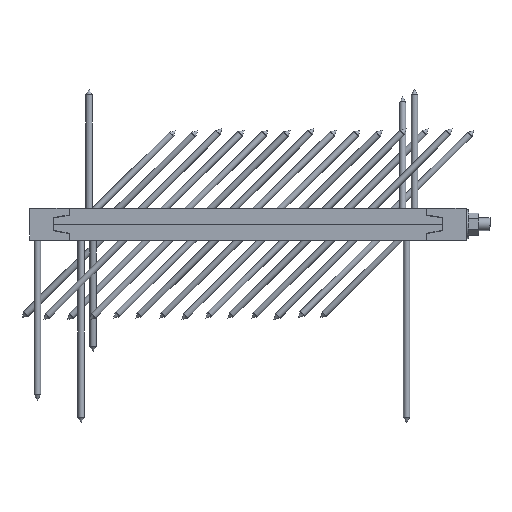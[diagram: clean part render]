
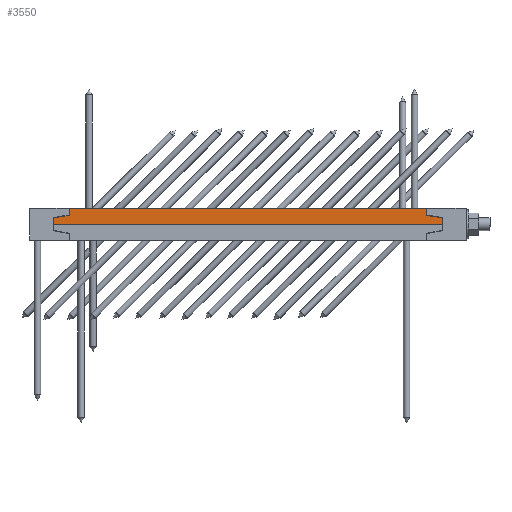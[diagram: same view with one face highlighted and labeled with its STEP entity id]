
A CAD part, left-side view. The second image highlights one B-rep face of the part: STEP entity #3550.
In plain terms, the highlighted planar face has unit normal (-1, 0, 0).
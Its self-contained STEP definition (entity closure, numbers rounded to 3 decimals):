
#490=LINE('',#5662,#738);
#522=LINE('',#5725,#770);
#557=LINE('',#5843,#805);
#559=LINE('',#5846,#807);
#561=LINE('',#5849,#809);
#562=LINE('',#5851,#810);
#563=LINE('',#5853,#811);
#564=LINE('',#5855,#812);
#738=VECTOR('',#4505,1000.);
#770=VECTOR('',#4545,1000.);
#805=VECTOR('',#4644,1000.);
#807=VECTOR('',#4648,1000.);
#809=VECTOR('',#4652,1000.);
#810=VECTOR('',#4655,1000.);
#811=VECTOR('',#4656,1000.);
#812=VECTOR('',#4657,1000.);
#1107=ORIENTED_EDGE('',*,*,#1907,.F.);
#1108=ORIENTED_EDGE('',*,*,#1908,.T.);
#1109=ORIENTED_EDGE('',*,*,#1909,.F.);
#1110=ORIENTED_EDGE('',*,*,#1808,.F.);
#1111=ORIENTED_EDGE('',*,*,#1906,.F.);
#1112=ORIENTED_EDGE('',*,*,#1902,.F.);
#1113=ORIENTED_EDGE('',*,*,#1904,.T.);
#1114=ORIENTED_EDGE('',*,*,#1842,.F.);
#1808=EDGE_CURVE('',#2218,#2219,#490,.T.);
#1842=EDGE_CURVE('',#2245,#2246,#522,.T.);
#1902=EDGE_CURVE('',#2296,#2294,#557,.T.);
#1904=EDGE_CURVE('',#2296,#2246,#559,.T.);
#1906=EDGE_CURVE('',#2294,#2218,#561,.T.);
#1907=EDGE_CURVE('',#2297,#2245,#562,.T.);
#1908=EDGE_CURVE('',#2297,#2298,#563,.T.);
#1909=EDGE_CURVE('',#2219,#2298,#564,.T.);
#2218=VERTEX_POINT('',#5661);
#2219=VERTEX_POINT('',#5663);
#2245=VERTEX_POINT('',#5724);
#2246=VERTEX_POINT('',#5726);
#2294=VERTEX_POINT('',#5838);
#2296=VERTEX_POINT('',#5842);
#2297=VERTEX_POINT('',#5852);
#2298=VERTEX_POINT('',#5854);
#2675=EDGE_LOOP('',(#1107,#1108,#1109,#1110,#1111,#1112,#1113,#1114));
#3075=FACE_BOUND('',#2675,.T.);
#3448=PLANE('',#4073);
#3550=ADVANCED_FACE('',(#3075),#3448,.T.);
#4073=AXIS2_PLACEMENT_3D('',#5850,#4653,#4654);
#4505=DIRECTION('',(0.,0.985,-0.174));
#4545=DIRECTION('',(0.,0.985,0.174));
#4644=DIRECTION('',(0.,-1.,0.));
#4648=DIRECTION('',(0.,0.,-1.));
#4652=DIRECTION('',(0.,0.,-1.));
#4653=DIRECTION('',(-1.,0.,0.));
#4654=DIRECTION('',(0.,0.,1.));
#4655=DIRECTION('',(0.,0.,1.));
#4656=DIRECTION('',(0.,-1.,0.));
#4657=DIRECTION('',(0.,0.,-1.));
#5661=CARTESIAN_POINT('',(0.,0.,12.25));
#5662=CARTESIAN_POINT('',(0.,0.,12.25));
#5663=CARTESIAN_POINT('',(0.,20.,8.723));
#5724=CARTESIAN_POINT('',(0.,470.,8.723));
#5725=CARTESIAN_POINT('',(0.,490.,12.25));
#5726=CARTESIAN_POINT('',(0.,490.,12.25));
#5838=CARTESIAN_POINT('',(0.,0.,20.));
#5842=CARTESIAN_POINT('',(0.,490.,20.));
#5843=CARTESIAN_POINT('',(0.,490.,20.));
#5846=CARTESIAN_POINT('',(0.,490.,20.));
#5849=CARTESIAN_POINT('',(0.,0.,20.));
#5850=CARTESIAN_POINT('',(0.,490.,20.));
#5851=CARTESIAN_POINT('',(0.,470.,8.723));
#5852=CARTESIAN_POINT('',(0.,470.,0.));
#5853=CARTESIAN_POINT('',(0.,490.,0.));
#5854=CARTESIAN_POINT('',(0.,20.,0.));
#5855=CARTESIAN_POINT('',(0.,20.,8.723));
